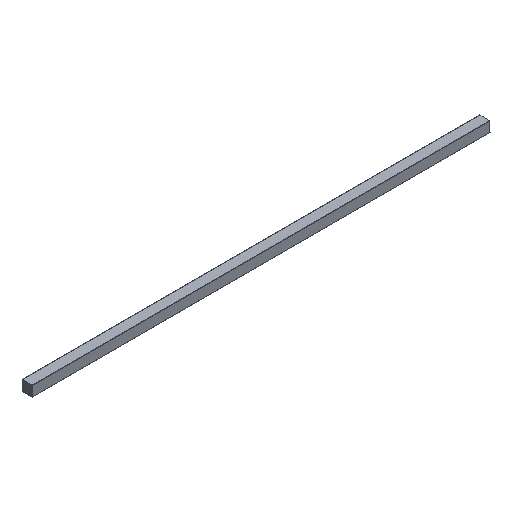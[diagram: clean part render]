
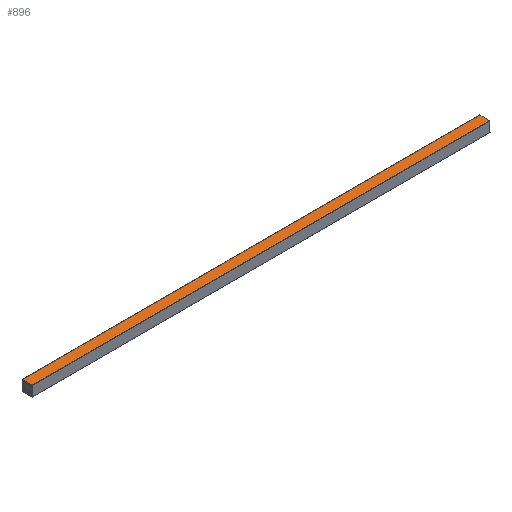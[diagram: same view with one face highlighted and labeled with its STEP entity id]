
A CAD part, isometric view. The second image highlights one B-rep face of the part: STEP entity #896.
In plain terms, the highlighted planar face has unit normal (0, 0, 1).
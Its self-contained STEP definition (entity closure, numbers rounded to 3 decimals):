
#652 = LINE ( 'NONE', #1337, #8194 ) ;
#896 = ADVANCED_FACE ( 'NONE', ( #1219 ), #6859, .T. ) ;
#941 = VERTEX_POINT ( 'NONE', #1264 ) ;
#1114 = CARTESIAN_POINT ( 'NONE',  ( -217.798, 4.574, 7.194 ) ) ;
#1219 = FACE_OUTER_BOUND ( 'NONE', #3890, .T. ) ;
#1264 = CARTESIAN_POINT ( 'NONE',  ( -217.798, 4.574, 7.194 ) ) ;
#1337 = CARTESIAN_POINT ( 'NONE',  ( -217.798, -4.109, 7.194 ) ) ;
#1585 = DIRECTION ( 'NONE',  ( 0., -1., 0. ) ) ;
#1703 = CARTESIAN_POINT ( 'NONE',  ( -217.798, -4.109, 7.194 ) ) ;
#2175 = VECTOR ( 'NONE', #5960, 1000. ) ;
#2205 = ORIENTED_EDGE ( 'NONE', *, *, #3701, .F. ) ;
#2970 = DIRECTION ( 'NONE',  ( 1., 0., 0. ) ) ;
#2991 = VECTOR ( 'NONE', #9249, 1000. ) ;
#3072 = ORIENTED_EDGE ( 'NONE', *, *, #5103, .T. ) ;
#3170 = CARTESIAN_POINT ( 'NONE',  ( -217.798, 4.574, 7.194 ) ) ;
#3302 = AXIS2_PLACEMENT_3D ( 'NONE', #5273, #10103, #8559 ) ;
#3459 = VERTEX_POINT ( 'NONE', #8625 ) ;
#3487 = LINE ( 'NONE', #1114, #2175 ) ;
#3537 = LINE ( 'NONE', #3590, #2991 ) ;
#3590 = CARTESIAN_POINT ( 'NONE',  ( 182.202, 4.574, 7.194 ) ) ;
#3608 = EDGE_CURVE ( 'NONE', #941, #6454, #7128, .T. ) ;
#3701 = EDGE_CURVE ( 'NONE', #941, #5695, #3487, .T. ) ;
#3890 = EDGE_LOOP ( 'NONE', ( #8541, #2205, #9277, #3072 ) ) ;
#4936 = CARTESIAN_POINT ( 'NONE',  ( 182.202, 4.574, 7.194 ) ) ;
#5103 = EDGE_CURVE ( 'NONE', #6454, #3459, #652, .T. ) ;
#5273 = CARTESIAN_POINT ( 'NONE',  ( -217.798, 4.574, 7.194 ) ) ;
#5695 = VERTEX_POINT ( 'NONE', #4936 ) ;
#5960 = DIRECTION ( 'NONE',  ( 1., 0., 0. ) ) ;
#6384 = VECTOR ( 'NONE', #1585, 1000. ) ;
#6454 = VERTEX_POINT ( 'NONE', #1703 ) ;
#6859 = PLANE ( 'NONE',  #3302 ) ;
#7069 = EDGE_CURVE ( 'NONE', #5695, #3459, #3537, .T. ) ;
#7128 = LINE ( 'NONE', #3170, #6384 ) ;
#8194 = VECTOR ( 'NONE', #2970, 1000. ) ;
#8541 = ORIENTED_EDGE ( 'NONE', *, *, #7069, .F. ) ;
#8559 = DIRECTION ( 'NONE',  ( 0., -1., 0. ) ) ;
#8625 = CARTESIAN_POINT ( 'NONE',  ( 182.202, -4.109, 7.194 ) ) ;
#9249 = DIRECTION ( 'NONE',  ( 0., -1., 0. ) ) ;
#9277 = ORIENTED_EDGE ( 'NONE', *, *, #3608, .T. ) ;
#10103 = DIRECTION ( 'NONE',  ( 0., 0., 1. ) ) ;
